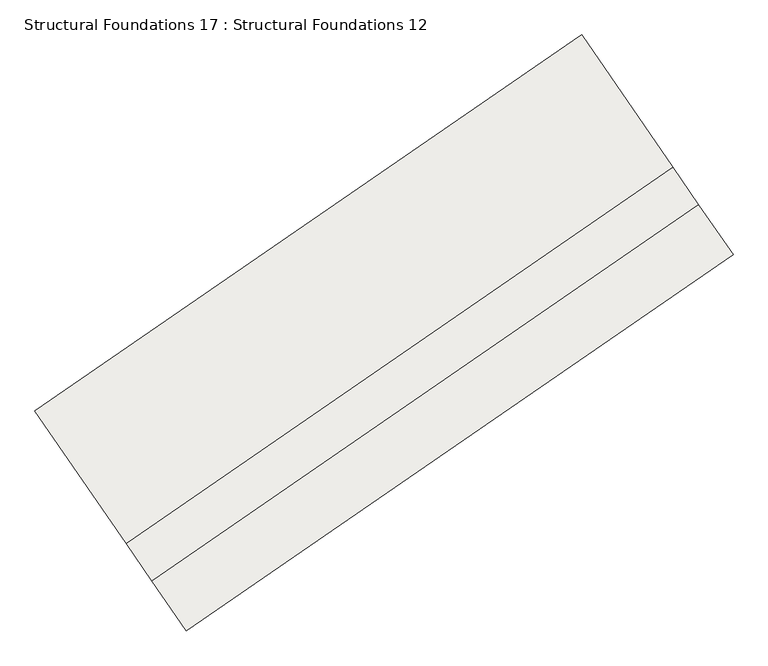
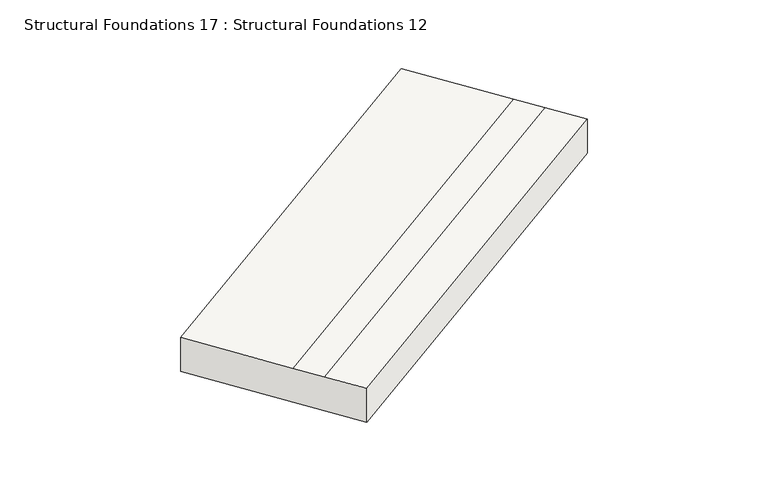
"""IFC4 building model written with IfcOpenShell, lengths in millimetres: slab geometry, Structural Foundations 17 : Structural Foundations 12."""

from ifc_helpers import new_model, si_unit, origin, place, context, project, spatial, faceted_brep, source, transform, mapped, element, save


def structural_foundations_17_structural_foundations_12_8db98994(model_context):
    return source(origin(), model_context, "Body", "Brep", [
        faceted_brep([(-304799.5427263, -411065.8780995, 634256.0000005), (-304799.5427263, -411065.8780995, 634956.0000005), (-303605.4426183, -412799.4149275, 634956.0000002), (-303267.9178855, -413289.4170227, 634956.0000001), (-302814.1031173, -413948.2433711, 634956.0), (-302814.1031173, -413948.2433711, 634256.0), (-311964.2792586, -416001.1136989, 634182.0000005), (-309978.8396497, -418883.4789705, 634182.0), (-309978.8396497, -418883.4789705, 634882.0), (-310432.6544179, -418224.6526221, 634882.0000001), (-310770.1791507, -417734.6505269, 634882.0000002), (-311964.2792586, -416001.1136989, 634882.0000005)], [[[0, 1, 2, 3, 4, 5]], [[6, 7, 8, 9, 10, 11]], [[6, 11, 1, 0]], [[11, 10, 2, 1]], [[10, 9, 3, 2]], [[9, 8, 4, 3]], [[8, 7, 5, 4]], [[7, 6, 0, 5]]]),
    ])


if __name__ == "__main__":
    model = new_model("IFC4")
    model_context = context("Model", 3, world=origin())
    ifc_project = project(units=[si_unit("LENGTHUNIT", "METRE", prefix="MILLI")], contexts=[model_context])
    site = spatial("IfcSite", under=ifc_project)
    building = spatial("IfcBuilding", under=site)
    placement = place(None, origin())
    structural_foundations_17_structural_foundations_12_shape = structural_foundations_17_structural_foundations_12_8db98994(model_context)
    element("IfcSlab", 1, ObjectType="Structural Foundations 17 : Structural Foundations 12", at=placement, inside=building, context=model_context, shape_type="MappedRepresentation", body=[
        mapped(structural_foundations_17_structural_foundations_12_shape, transform((0.0, 0.0, 0.0), x_axis=(1.0, 0.0, 0.0), y_axis=(0.0, 1.0, 0.0), z_axis=(0.0, 0.0, 1.0))),
    ])
    save(model, "model.ifc")
